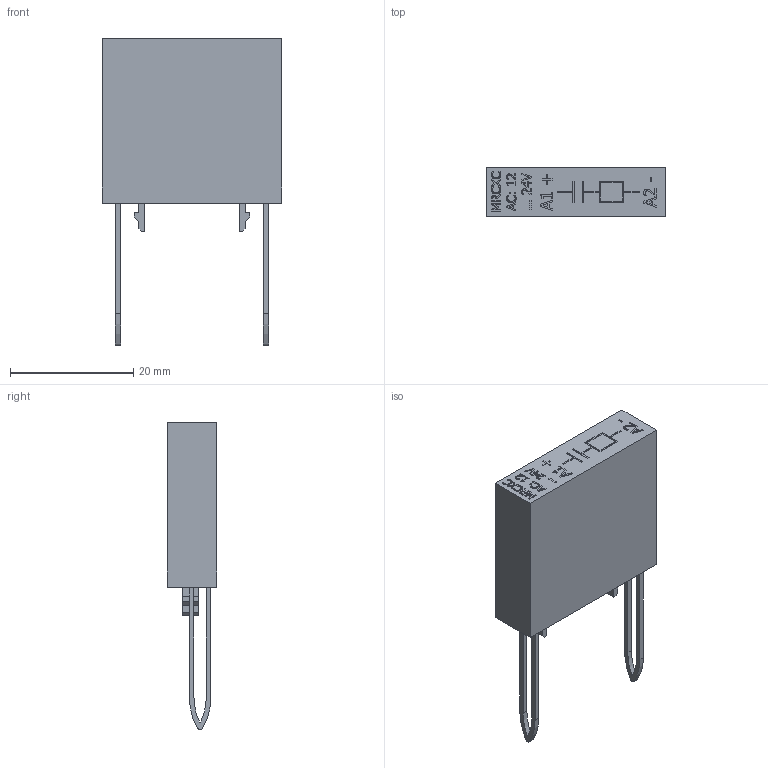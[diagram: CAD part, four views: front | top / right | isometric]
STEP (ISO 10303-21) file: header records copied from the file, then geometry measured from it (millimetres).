
FILE_DESCRIPTION((''),'2;1');
FILE_NAME('PRT0001','2023-07-11T12:41:12',('design1'),(''),'CREO PARAMETRIC BY PTC INC, 2022284','CREO PARAMETRIC BY PTC INC, 2022284','');
FILE_SCHEMA(('CONFIG_CONTROL_DESIGN'));
Length unit declared in the file: millimetre
Products named in the file (1): PRT0001
Bounding box: 29.05 x 8.03 x 49.77 mm (x, y, z)
Volume: 3551.4 mm3; surface area: 7206.1 mm2
Topology: 2 solids, 2 shells, 740 faces, 2093 edges, 1381 vertices
Faces by surface type: plane 513, extrusion 150, cylinder 59, torus 16, bspline 2
Entity records: 24981 total; most frequent: CARTESIAN_POINT 6117, ORIENTED_EDGE 4186, DIRECTION 3292, EDGE_CURVE 2093, VECTOR 1770, LINE 1620, VERTEX_POINT 1381, EDGE_LOOP 806
